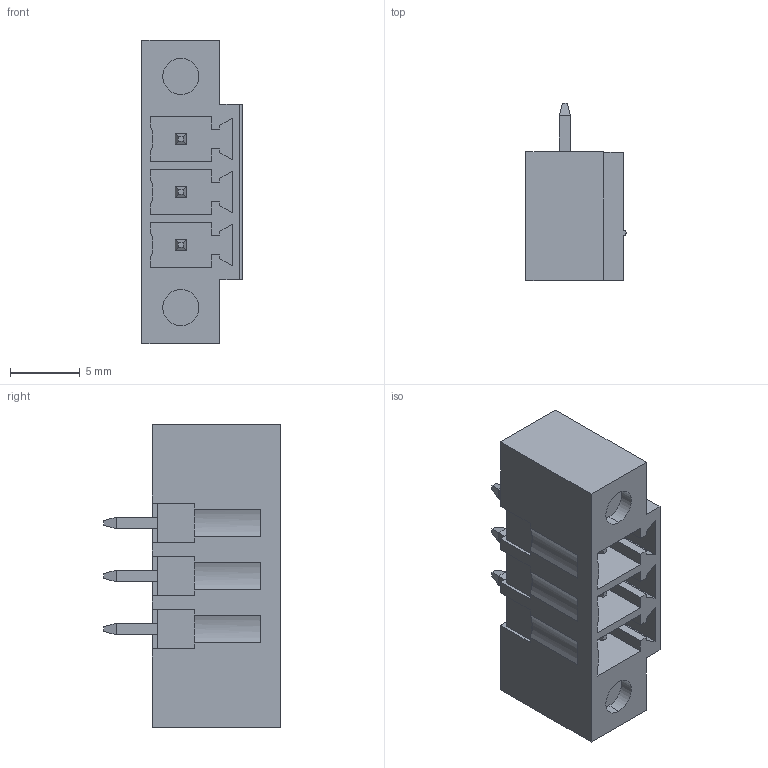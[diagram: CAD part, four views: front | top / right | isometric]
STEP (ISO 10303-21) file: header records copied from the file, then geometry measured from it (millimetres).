
FILE_DESCRIPTION((''),'2;1');
FILE_NAME('33','2019-04-08T',('zhenbing.lai'),(''),'CREO PARAMETRIC BY PTC INC, 2016260','CREO PARAMETRIC BY PTC INC, 2016260','');
FILE_SCHEMA(('CONFIG_CONTROL_DESIGN'));
Length unit declared in the file: millimetre
Products named in the file (1): 33
Bounding box: 7.2 x 12.7 x 21.82 mm (x, y, z)
Volume: 923.5 mm3; surface area: 1323.2 mm2
Topology: 1 solids, 1 shells, 158 faces, 404 edges, 261 vertices
Faces by surface type: plane 147, cylinder 11
Entity records: 4713 total; most frequent: CARTESIAN_POINT 823, ORIENTED_EDGE 808, DIRECTION 747, EDGE_CURVE 404, VECTOR 377, LINE 377, VERTEX_POINT 261, AXIS2_PLACEMENT_3D 185
